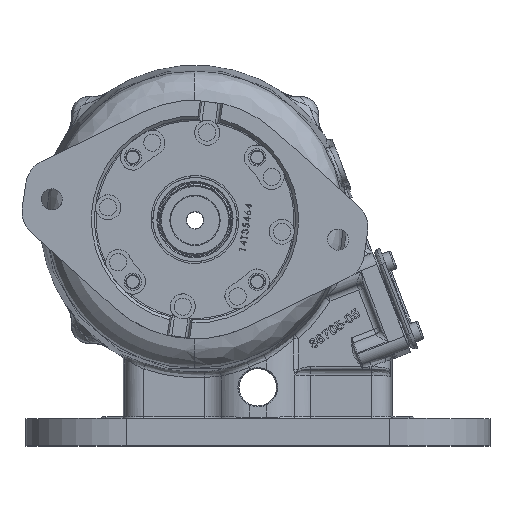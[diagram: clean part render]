
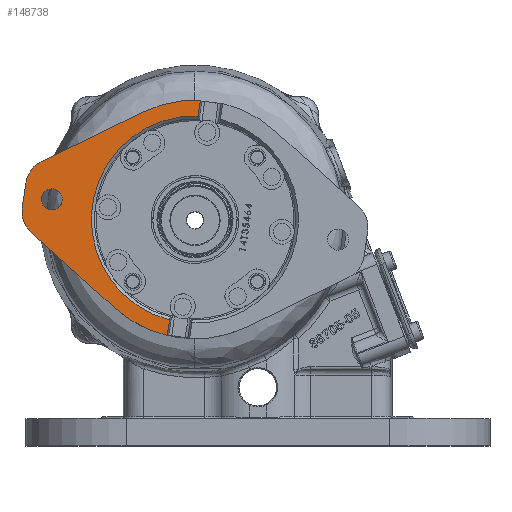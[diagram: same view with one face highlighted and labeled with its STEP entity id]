
A CAD part, top view. The second image highlights one B-rep face of the part: STEP entity #148738.
In plain terms, the highlighted planar face has unit normal (0, 0, 1) as drawn and (0, 0, -1) by its records, which use the part's own axes.
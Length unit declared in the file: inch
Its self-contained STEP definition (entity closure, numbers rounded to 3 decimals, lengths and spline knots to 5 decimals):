
#1500 = CARTESIAN_POINT ( 'NONE',  ( 1.96896, 1.32808, 0.12 ) ) ;
#1650 = DIRECTION ( 'NONE',  ( 0., 0., 1. ) ) ;
#1734 = ORIENTED_EDGE ( 'NONE', *, *, #21809, .F. ) ;
#1769 = AXIS2_PLACEMENT_3D ( 'NONE', #53015, #69330, #153743 ) ;
#7944 = DIRECTION ( 'NONE',  ( 1., 0., 0. ) ) ;
#9499 = EDGE_CURVE ( 'NONE', #77311, #87137, #48000, .T. ) ;
#11529 = FACE_BOUND ( 'NONE', #56144, .T. ) ;
#11827 = LINE ( 'NONE', #111708, #145545 ) ;
#11971 = CARTESIAN_POINT ( 'NONE',  ( -0.25007, 3.435, 0.12 ) ) ;
#11993 = DIRECTION ( 'NONE',  ( -1., 0., 0. ) ) ;
#13469 = AXIS2_PLACEMENT_3D ( 'NONE', #59889, #123751, #109865 ) ;
#13844 = ORIENTED_EDGE ( 'NONE', *, *, #102312, .F. ) ;
#13911 = CARTESIAN_POINT ( 'NONE',  ( 0., 0., 0.12 ) ) ;
#15390 = LINE ( 'NONE', #1500, #118233 ) ;
#15707 = VERTEX_POINT ( 'NONE', #22670 ) ;
#16347 = DIRECTION ( 'NONE',  ( 1., 0., 0. ) ) ;
#17962 = DIRECTION ( 'NONE',  ( 0., 0., 1. ) ) ;
#19456 = DIRECTION ( 'NONE',  ( -0.559, -0.829, 0. ) ) ;
#19633 = ORIENTED_EDGE ( 'NONE', *, *, #42030, .T. ) ;
#21682 = DIRECTION ( 'NONE',  ( 1., 0., 0. ) ) ;
#21809 = EDGE_CURVE ( 'NONE', #150383, #106670, #32996, .T. ) ;
#22670 = CARTESIAN_POINT ( 'NONE',  ( -0.71433, 3.18815, 0.12 ) ) ;
#23362 = EDGE_CURVE ( 'NONE', #53411, #116878, #11827, .T. ) ;
#23966 = CIRCLE ( 'NONE', #13469, 0.21095 ) ;
#26862 = DIRECTION ( 'NONE',  ( -0.559, 0.829, 0. ) ) ;
#28962 = AXIS2_PLACEMENT_3D ( 'NONE', #123677, #100765, #111418 ) ;
#30450 = CARTESIAN_POINT ( 'NONE',  ( 0., 2.875, 0.12 ) ) ;
#31761 = CIRCLE ( 'NONE', #44807, 2.375 ) ;
#32996 = CIRCLE ( 'NONE', #61712, 2.375 ) ;
#33530 = VERTEX_POINT ( 'NONE', #57611 ) ;
#37338 = ORIENTED_EDGE ( 'NONE', *, *, #69068, .F. ) ;
#42030 = EDGE_CURVE ( 'NONE', #120011, #116878, #75148, .T. ) ;
#43495 = EDGE_CURVE ( 'NONE', #150383, #120011, #156910, .T. ) ;
#43781 = VECTOR ( 'NONE', #19456, 39.37008 ) ;
#44807 = AXIS2_PLACEMENT_3D ( 'NONE', #95075, #81185, #145823 ) ;
#47616 = VECTOR ( 'NONE', #11993, 39.37008 ) ;
#48000 = LINE ( 'NONE', #87324, #47616 ) ;
#49795 = CIRCLE ( 'NONE', #144045, 0.56 ) ;
#51325 = EDGE_CURVE ( 'NONE', #15707, #147860, #96392, .T. ) ;
#51888 = CARTESIAN_POINT ( 'NONE',  ( 0.25007, 3.435, 0.12 ) ) ;
#53015 = CARTESIAN_POINT ( 'NONE',  ( 0.25007, 2.875, 0.12 ) ) ;
#53411 = VERTEX_POINT ( 'NONE', #83162 ) ;
#56144 = EDGE_LOOP ( 'NONE', ( #127367, #104507 ) ) ;
#56274 = CARTESIAN_POINT ( 'NONE',  ( 0., 0., 0.12 ) ) ;
#57611 = CARTESIAN_POINT ( 'NONE',  ( -0.21095, 2.875, 0.12 ) ) ;
#59889 = CARTESIAN_POINT ( 'NONE',  ( 0., 2.875, 0.12 ) ) ;
#61712 = AXIS2_PLACEMENT_3D ( 'NONE', #56274, #131611, #7944 ) ;
#63896 = FACE_OUTER_BOUND ( 'NONE', #100229, .T. ) ;
#65104 = CARTESIAN_POINT ( 'NONE',  ( 2.36432, 0.225, 0.12 ) ) ;
#66053 = CARTESIAN_POINT ( 'NONE',  ( 0.71433, 3.18815, 0.12 ) ) ;
#67288 = DIRECTION ( 'NONE',  ( 0., 0., -1. ) ) ;
#67489 = CARTESIAN_POINT ( 'NONE',  ( 2.04868, 0.225, 0.12 ) ) ;
#67913 = VERTEX_POINT ( 'NONE', #87535 ) ;
#69068 = EDGE_CURVE ( 'NONE', #87137, #15707, #49795, .T. ) ;
#69178 = AXIS2_PLACEMENT_3D ( 'NONE', #30450, #67288, #104149 ) ;
#69330 = DIRECTION ( 'NONE',  ( 0., 0., 1. ) ) ;
#72315 = CIRCLE ( 'NONE', #1769, 0.56 ) ;
#72453 = EDGE_CURVE ( 'NONE', #67913, #33530, #23966, .T. ) ;
#75148 = CIRCLE ( 'NONE', #109158, 2.061 ) ;
#77311 = VERTEX_POINT ( 'NONE', #51888 ) ;
#81185 = DIRECTION ( 'NONE',  ( 0., 0., 1. ) ) ;
#83162 = CARTESIAN_POINT ( 'NONE',  ( -2.36432, 0.225, 0.12 ) ) ;
#83506 = EDGE_CURVE ( 'NONE', #106670, #136618, #15390, .T. ) ;
#87137 = VERTEX_POINT ( 'NONE', #11971 ) ;
#87324 = CARTESIAN_POINT ( 'NONE',  ( -0.25007, 3.435, 0.12 ) ) ;
#87535 = CARTESIAN_POINT ( 'NONE',  ( 0.21095, 2.875, 0.12 ) ) ;
#87833 = ORIENTED_EDGE ( 'NONE', *, *, #153520, .F. ) ;
#89558 = ORIENTED_EDGE ( 'NONE', *, *, #83506, .F. ) ;
#90888 = CARTESIAN_POINT ( 'NONE',  ( -0.25007, 2.875, 0.12 ) ) ;
#95075 = CARTESIAN_POINT ( 'NONE',  ( 0., 0., 0.12 ) ) ;
#96392 = LINE ( 'NONE', #130825, #43781 ) ;
#99148 = PLANE ( 'NONE',  #28962 ) ;
#100229 = EDGE_LOOP ( 'NONE', ( #135045, #19633, #136460, #87833, #158827, #37338, #145196, #13844, #89558, #1734 ) ) ;
#100765 = DIRECTION ( 'NONE',  ( 0., 0., 1. ) ) ;
#102312 = EDGE_CURVE ( 'NONE', #136618, #77311, #72315, .T. ) ;
#104149 = DIRECTION ( 'NONE',  ( -1., 0., 0. ) ) ;
#104507 = ORIENTED_EDGE ( 'NONE', *, *, #72453, .F. ) ;
#106670 = VERTEX_POINT ( 'NONE', #132002 ) ;
#109158 = AXIS2_PLACEMENT_3D ( 'NONE', #13911, #1650, #126875 ) ;
#109865 = DIRECTION ( 'NONE',  ( -1., 0., 0. ) ) ;
#111418 = DIRECTION ( 'NONE',  ( 1., 0., 0. ) ) ;
#111708 = CARTESIAN_POINT ( 'NONE',  ( -7.33, 0.225, 0.12 ) ) ;
#116878 = VERTEX_POINT ( 'NONE', #133923 ) ;
#118233 = VECTOR ( 'NONE', #26862, 39.37008 ) ;
#120011 = VERTEX_POINT ( 'NONE', #67489 ) ;
#123677 = CARTESIAN_POINT ( 'NONE',  ( 0., 3.75, 0.12 ) ) ;
#123751 = DIRECTION ( 'NONE',  ( 0., 0., -1. ) ) ;
#125043 = VECTOR ( 'NONE', #147863, 39.37008 ) ;
#126875 = DIRECTION ( 'NONE',  ( 1., 0., 0. ) ) ;
#127367 = ORIENTED_EDGE ( 'NONE', *, *, #129816, .F. ) ;
#129816 = EDGE_CURVE ( 'NONE', #33530, #67913, #142384, .T. ) ;
#130825 = CARTESIAN_POINT ( 'NONE',  ( -0.71433, 3.18815, 0.12 ) ) ;
#131611 = DIRECTION ( 'NONE',  ( 0., 0., 1. ) ) ;
#132002 = CARTESIAN_POINT ( 'NONE',  ( 1.96896, 1.32808, 0.12 ) ) ;
#133144 = CARTESIAN_POINT ( 'NONE',  ( 2.375, 0.225, 0.12 ) ) ;
#133923 = CARTESIAN_POINT ( 'NONE',  ( -2.04868, 0.225, 0.12 ) ) ;
#135045 = ORIENTED_EDGE ( 'NONE', *, *, #43495, .T. ) ;
#136460 = ORIENTED_EDGE ( 'NONE', *, *, #23362, .F. ) ;
#136618 = VERTEX_POINT ( 'NONE', #66053 ) ;
#142384 = CIRCLE ( 'NONE', #69178, 0.21095 ) ;
#144045 = AXIS2_PLACEMENT_3D ( 'NONE', #90888, #17962, #16347 ) ;
#145196 = ORIENTED_EDGE ( 'NONE', *, *, #9499, .F. ) ;
#145545 = VECTOR ( 'NONE', #21682, 39.37008 ) ;
#145823 = DIRECTION ( 'NONE',  ( 1., 0., 0. ) ) ;
#147860 = VERTEX_POINT ( 'NONE', #154334 ) ;
#147863 = DIRECTION ( 'NONE',  ( -1., 0., 0. ) ) ;
#148738 = ADVANCED_FACE ( 'NONE', ( #11529, #63896 ), #99148, .F. ) ;
#150383 = VERTEX_POINT ( 'NONE', #65104 ) ;
#153520 = EDGE_CURVE ( 'NONE', #147860, #53411, #31761, .T. ) ;
#153743 = DIRECTION ( 'NONE',  ( 1., 0., 0. ) ) ;
#154334 = CARTESIAN_POINT ( 'NONE',  ( -1.96896, 1.32808, 0.12 ) ) ;
#156910 = LINE ( 'NONE', #133144, #125043 ) ;
#158827 = ORIENTED_EDGE ( 'NONE', *, *, #51325, .F. ) ;
